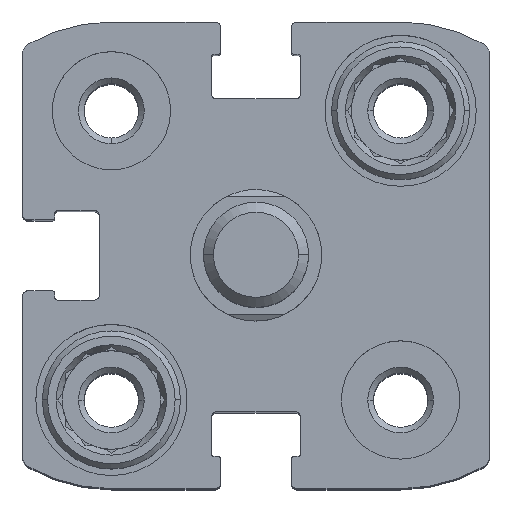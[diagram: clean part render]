
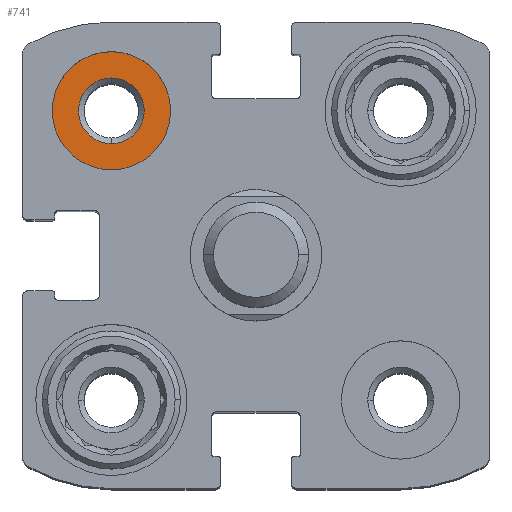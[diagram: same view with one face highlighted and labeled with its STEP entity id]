
A CAD part, top view. The second image highlights one B-rep face of the part: STEP entity #741.
In plain terms, the highlighted planar face has unit normal (0, 0, 1).
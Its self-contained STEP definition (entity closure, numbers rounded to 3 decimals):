
#355 = CIRCLE ( 'NONE', #4053, 4.5 ) ;
#741 = ADVANCED_FACE ( 'NONE', ( #11174, #13228 ), #5017, .T. ) ;
#886 = CIRCLE ( 'NONE', #2631, 4.5 ) ;
#892 = DIRECTION ( 'NONE',  ( 0., 1., 0. ) ) ;
#933 = CARTESIAN_POINT ( 'NONE',  ( -11., 15.5, -4.8 ) ) ;
#1326 = DIRECTION ( 'NONE',  ( 0., 0., -1. ) ) ;
#2124 = AXIS2_PLACEMENT_3D ( 'NONE', #10618, #1326, #7369 ) ;
#2311 = EDGE_LOOP ( 'NONE', ( #2494, #2805 ) ) ;
#2463 = CARTESIAN_POINT ( 'NONE',  ( -11., 11., -4.8 ) ) ;
#2494 = ORIENTED_EDGE ( 'NONE', *, *, #5879, .F. ) ;
#2631 = AXIS2_PLACEMENT_3D ( 'NONE', #2463, #7747, #8764 ) ;
#2805 = ORIENTED_EDGE ( 'NONE', *, *, #12762, .F. ) ;
#4017 = CARTESIAN_POINT ( 'NONE',  ( -11., 11., -4.8 ) ) ;
#4053 = AXIS2_PLACEMENT_3D ( 'NONE', #4017, #6190, #8295 ) ;
#4193 = CARTESIAN_POINT ( 'NONE',  ( -11., 8.5, -4.8 ) ) ;
#5017 = PLANE ( 'NONE',  #12138 ) ;
#5137 = CARTESIAN_POINT ( 'NONE',  ( -11., 15.5, -4.8 ) ) ;
#5202 = VERTEX_POINT ( 'NONE', #10968 ) ;
#5879 = EDGE_CURVE ( 'NONE', #6546, #5202, #886, .T. ) ;
#6009 = VERTEX_POINT ( 'NONE', #6855 ) ;
#6190 = DIRECTION ( 'NONE',  ( 0., 0., -1. ) ) ;
#6312 = CIRCLE ( 'NONE', #7177, 2.5 ) ;
#6546 = VERTEX_POINT ( 'NONE', #5137 ) ;
#6855 = CARTESIAN_POINT ( 'NONE',  ( -11., 13.5, -4.8 ) ) ;
#7143 = EDGE_LOOP ( 'NONE', ( #13153, #10118 ) ) ;
#7177 = AXIS2_PLACEMENT_3D ( 'NONE', #12224, #11340, #892 ) ;
#7369 = DIRECTION ( 'NONE',  ( 0., 1., 0. ) ) ;
#7542 = CIRCLE ( 'NONE', #2124, 2.5 ) ;
#7747 = DIRECTION ( 'NONE',  ( 0., 0., -1. ) ) ;
#7975 = EDGE_CURVE ( 'NONE', #10046, #6009, #6312, .T. ) ;
#8295 = DIRECTION ( 'NONE',  ( 0., 1., 0. ) ) ;
#8764 = DIRECTION ( 'NONE',  ( 0., 1., 0. ) ) ;
#10046 = VERTEX_POINT ( 'NONE', #4193 ) ;
#10084 = DIRECTION ( 'NONE',  ( 1., 0., 0. ) ) ;
#10118 = ORIENTED_EDGE ( 'NONE', *, *, #10878, .T. ) ;
#10223 = DIRECTION ( 'NONE',  ( 0., 0., 1. ) ) ;
#10618 = CARTESIAN_POINT ( 'NONE',  ( -11., 11., -4.8 ) ) ;
#10878 = EDGE_CURVE ( 'NONE', #6009, #10046, #7542, .T. ) ;
#10968 = CARTESIAN_POINT ( 'NONE',  ( -11., 6.5, -4.8 ) ) ;
#11174 = FACE_OUTER_BOUND ( 'NONE', #2311, .T. ) ;
#11340 = DIRECTION ( 'NONE',  ( 0., 0., -1. ) ) ;
#12138 = AXIS2_PLACEMENT_3D ( 'NONE', #933, #10223, #10084 ) ;
#12224 = CARTESIAN_POINT ( 'NONE',  ( -11., 11., -4.8 ) ) ;
#12762 = EDGE_CURVE ( 'NONE', #5202, #6546, #355, .T. ) ;
#13153 = ORIENTED_EDGE ( 'NONE', *, *, #7975, .T. ) ;
#13228 = FACE_BOUND ( 'NONE', #7143, .T. ) ;
